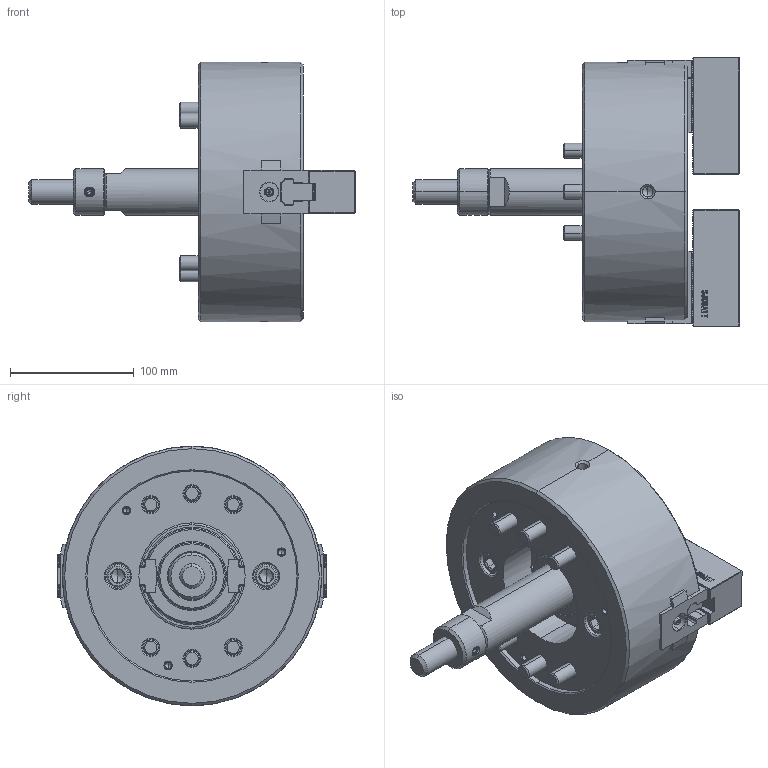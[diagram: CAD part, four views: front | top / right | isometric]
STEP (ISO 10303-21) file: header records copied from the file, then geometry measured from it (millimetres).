
FILE_DESCRIPTION (( 'STEP AP214' ), '1' );
FILE_NAME ('DT1_NLT08_OUTSIDE_VIEW_UC.STEP', '2026-03-23T04:17:16', ( '' ), ( '' ), 'SwSTEP 2.0', 'SolidWorks 2022', '' );
FILE_SCHEMA (( 'AUTOMOTIVE_DESIGN' ));
Length unit declared in the file: millimetre
Products named in the file (11): DT1_NLT08_DRAWSCREW^DT1_NLT08; DT1_NLT08_M5x12^DT1_NLT08; DT1_NLT08_SOFTJAW^DT1_NLT08; Copy of 61P310518^DT1_NLT08; DT1_NLT08_OUTSIDE_VIEW_UC; DT1_NLT08_M12x85^DT1_NLT08; DT1_NLT08_M12x35^DT1_NLT08; DT1_NLT08_DN^DT1_NLT08; DT1_NLT08_COVER^DT1_NLT08; DT1_NLT08_BASE^DT1_NLT08; DT1_NLT08_TNUT^DT1_NLT08
Assembly tree (23 placements, depth 2):
  DT1_NLT08_OUTSIDE_VIEW_UC
    DT1_NLT08_SOFTJAW^DT1_NLT08  x2
    DT1_NLT08_TNUT^DT1_NLT08  x2
    DT1_NLT08_COVER^DT1_NLT08
    DT1_NLT08_DRAWSCREW^DT1_NLT08
    Copy of 61P310518^DT1_NLT08
    DT1_NLT08_DN^DT1_NLT08
    DT1_NLT08_BASE^DT1_NLT08
    DT1_NLT08_M12x85^DT1_NLT08  x6
    DT1_NLT08_M12x35^DT1_NLT08  x4
    DT1_NLT08_M5x12^DT1_NLT08  x4
Bounding box: 264 x 218.2 x 210 mm (x, y, z)
Volume: 2987244.8 mm3; surface area: 350883.3 mm2
Topology: 23 solids, 23 shells, 3751 faces, 10533 edges, 6881 vertices
Faces by surface type: plane 2128, cylinder 923, cone 376, bspline 269, torus 51, sphere 4
Entity records: 94434 total; most frequent: CARTESIAN_POINT 28816, ORIENTED_EDGE 14946, DIRECTION 11557, EDGE_CURVE 7473, LINE 5043, VECTOR 5043, VERTEX_POINT 4900, AXIS2_PLACEMENT_3D 3257
